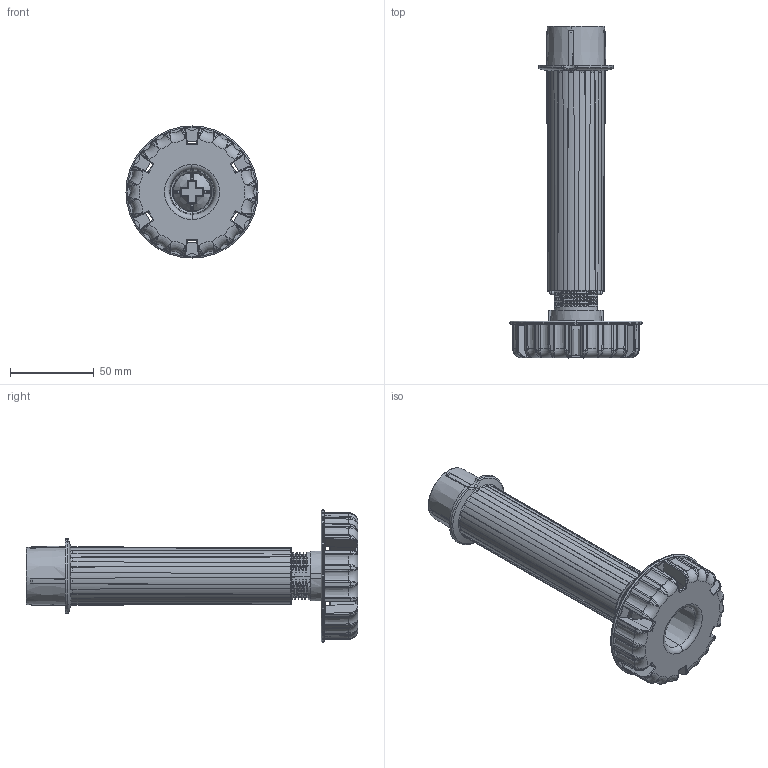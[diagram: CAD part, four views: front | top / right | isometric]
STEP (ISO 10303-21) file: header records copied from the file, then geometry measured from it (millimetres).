
FILE_DESCRIPTION((''),'2;1');
FILE_NAME('69_4202_ASM','2014-10-30T',('hha'),(''),'PRO/ENGINEER BY PARAMETRIC TECHNOLOGY CORPORATION, 2012360','PRO/ENGINEER BY PARAMETRIC TECHNOLOGY CORPORATION, 2012360','');
FILE_SCHEMA(('CONFIG_CONTROL_DESIGN'));
Length unit declared in the file: millimetre
Products named in the file (3): 69_0015; 69_2003; 69_4202_ASM
Assembly tree (2 placements, depth 2):
  69_4202_ASM
    69_0015
    69_2003
Bounding box: 79 x 198.4 x 79 mm (x, y, z)
Volume: 74232.1 mm3; surface area: 76020.8 mm2
Topology: 2 solids, 2 shells, 1116 faces, 3028 edges, 1908 vertices
Faces by surface type: bspline 332, cylinder 208, plane 207, cone 170, torus 169, sphere 30
Entity records: 89017 total; most frequent: CARTESIAN_POINT 64796, ORIENTED_EDGE 6048, DIRECTION 3652, EDGE_CURVE 3024, VERTEX_POINT 1908, B_SPLINE_CURVE_WITH_KNOTS 1620, AXIS2_PLACEMENT_3D 1459, EDGE_LOOP 1126
